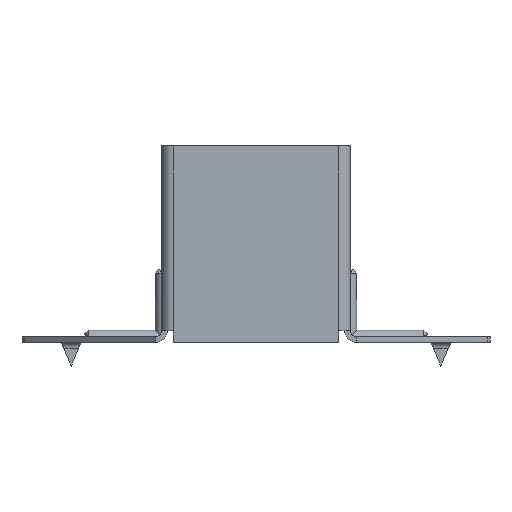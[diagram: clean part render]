
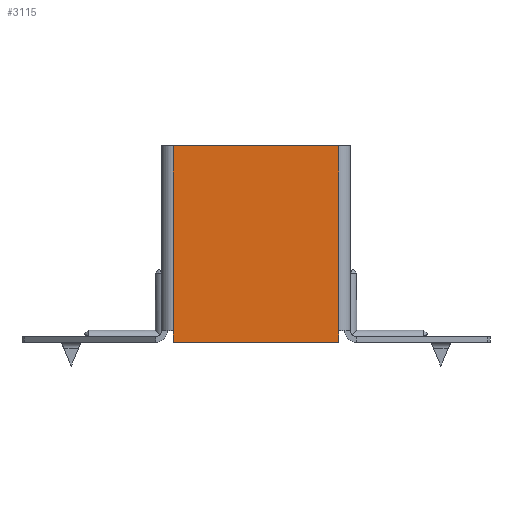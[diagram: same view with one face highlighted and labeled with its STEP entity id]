
A CAD part, front view. The second image highlights one B-rep face of the part: STEP entity #3115.
In plain terms, the highlighted planar face has unit normal (0, -1, 0).
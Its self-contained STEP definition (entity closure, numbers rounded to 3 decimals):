
#152 = LINE ( 'NONE', #3059, #8521 ) ;
#440 = VECTOR ( 'NONE', #4505, 1000. ) ;
#691 = ORIENTED_EDGE ( 'NONE', *, *, #2462, .T. ) ;
#733 = VECTOR ( 'NONE', #5653, 1000. ) ;
#943 = DIRECTION ( 'NONE',  ( 0., 1., 0. ) ) ;
#1004 = DIRECTION ( 'NONE',  ( 0., 0., 1. ) ) ;
#1022 = ORIENTED_EDGE ( 'NONE', *, *, #4306, .T. ) ;
#1472 = EDGE_CURVE ( 'NONE', #2946, #9457, #8873, .T. ) ;
#1696 = CARTESIAN_POINT ( 'NONE',  ( 21., 0., -70. ) ) ;
#1884 = CARTESIAN_POINT ( 'NONE',  ( -21., 0., -67. ) ) ;
#2209 = VECTOR ( 'NONE', #4694, 1000. ) ;
#2329 = DIRECTION ( 'NONE',  ( 0., 0., -1. ) ) ;
#2407 = LINE ( 'NONE', #3703, #440 ) ;
#2462 = EDGE_CURVE ( 'NONE', #9457, #7041, #8036, .T. ) ;
#2514 = VERTEX_POINT ( 'NONE', #8193 ) ;
#2604 = EDGE_CURVE ( 'NONE', #7041, #2514, #152, .T. ) ;
#2946 = VERTEX_POINT ( 'NONE', #4351 ) ;
#3038 = DIRECTION ( 'NONE',  ( 0., 0., 1. ) ) ;
#3059 = CARTESIAN_POINT ( 'NONE',  ( -21., 0., 0. ) ) ;
#3069 = ORIENTED_EDGE ( 'NONE', *, *, #1472, .T. ) ;
#3115 = ADVANCED_FACE ( 'NONE', ( #9455 ), #6828, .F. ) ;
#3117 = VERTEX_POINT ( 'NONE', #7538 ) ;
#3157 = CARTESIAN_POINT ( 'NONE',  ( 0., 0., 0. ) ) ;
#3703 = CARTESIAN_POINT ( 'NONE',  ( -22.5, 0., -70. ) ) ;
#3786 = CARTESIAN_POINT ( 'NONE',  ( -21., 0., 0. ) ) ;
#3889 = VERTEX_POINT ( 'NONE', #5067 ) ;
#4306 = EDGE_CURVE ( 'NONE', #3117, #3889, #9542, .T. ) ;
#4351 = CARTESIAN_POINT ( 'NONE',  ( 21., 0., -20. ) ) ;
#4505 = DIRECTION ( 'NONE',  ( -1., 0., 0. ) ) ;
#4694 = DIRECTION ( 'NONE',  ( 0., 0., 1. ) ) ;
#4856 = ORIENTED_EDGE ( 'NONE', *, *, #8744, .F. ) ;
#5067 = CARTESIAN_POINT ( 'NONE',  ( 21., 0., -67. ) ) ;
#5653 = DIRECTION ( 'NONE',  ( -1., 0., 0. ) ) ;
#5996 = DIRECTION ( 'NONE',  ( 0., 0., -1. ) ) ;
#6828 = PLANE ( 'NONE',  #7934 ) ;
#6883 = ORIENTED_EDGE ( 'NONE', *, *, #7557, .T. ) ;
#6940 = EDGE_LOOP ( 'NONE', ( #3069, #691, #8377, #4856, #1022, #6883 ) ) ;
#7041 = VERTEX_POINT ( 'NONE', #1884 ) ;
#7086 = CARTESIAN_POINT ( 'NONE',  ( 0., 0., -20. ) ) ;
#7422 = CARTESIAN_POINT ( 'NONE',  ( -21., 0., -20. ) ) ;
#7538 = CARTESIAN_POINT ( 'NONE',  ( 21., 0., -70. ) ) ;
#7557 = EDGE_CURVE ( 'NONE', #3889, #2946, #7762, .T. ) ;
#7633 = CARTESIAN_POINT ( 'NONE',  ( 21., 0., -70. ) ) ;
#7762 = LINE ( 'NONE', #7633, #8472 ) ;
#7934 = AXIS2_PLACEMENT_3D ( 'NONE', #3157, #943, #3038 ) ;
#8036 = LINE ( 'NONE', #3786, #9342 ) ;
#8193 = CARTESIAN_POINT ( 'NONE',  ( -21., 0., -70. ) ) ;
#8377 = ORIENTED_EDGE ( 'NONE', *, *, #2604, .T. ) ;
#8472 = VECTOR ( 'NONE', #1004, 1000. ) ;
#8521 = VECTOR ( 'NONE', #5996, 1000. ) ;
#8744 = EDGE_CURVE ( 'NONE', #3117, #2514, #2407, .T. ) ;
#8873 = LINE ( 'NONE', #7086, #733 ) ;
#9342 = VECTOR ( 'NONE', #2329, 1000. ) ;
#9455 = FACE_OUTER_BOUND ( 'NONE', #6940, .T. ) ;
#9457 = VERTEX_POINT ( 'NONE', #7422 ) ;
#9542 = LINE ( 'NONE', #1696, #2209 ) ;
